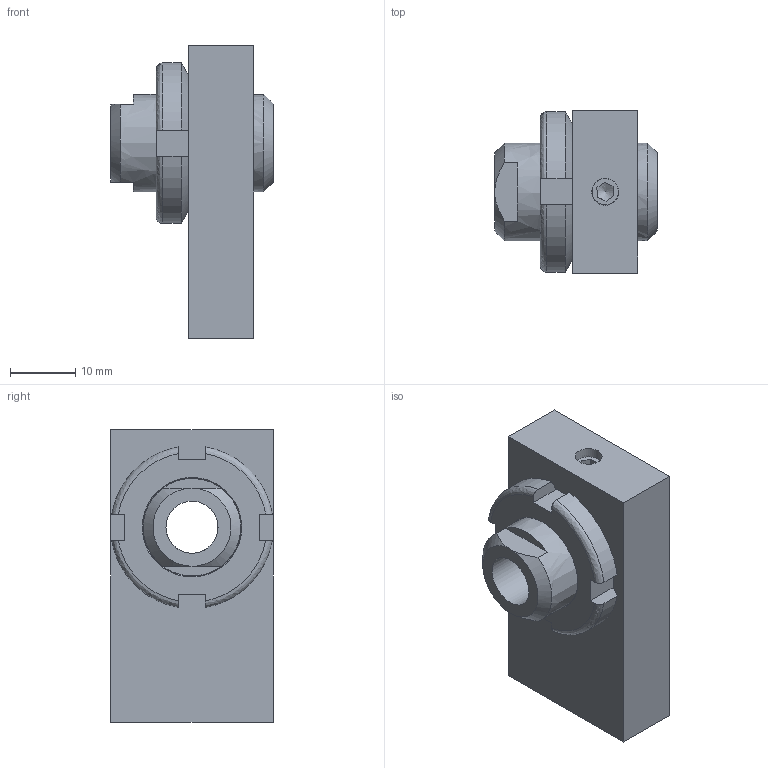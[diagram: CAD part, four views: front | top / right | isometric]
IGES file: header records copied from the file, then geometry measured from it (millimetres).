
Global section: file name: 03.55; native system: Autodesk Inventor 2014; preprocessor: unknown; author: APto; date: 20150401.092159; units: millimetre
Bounding box: 25 x 25 x 45 mm (x, y, z)
Volume: 13733.1 mm3; surface area: 7320.1 mm2
Topology: 4 solids, 4 shells, 64 faces, 173 edges, 116 vertices
Faces by surface type: bspline 64
